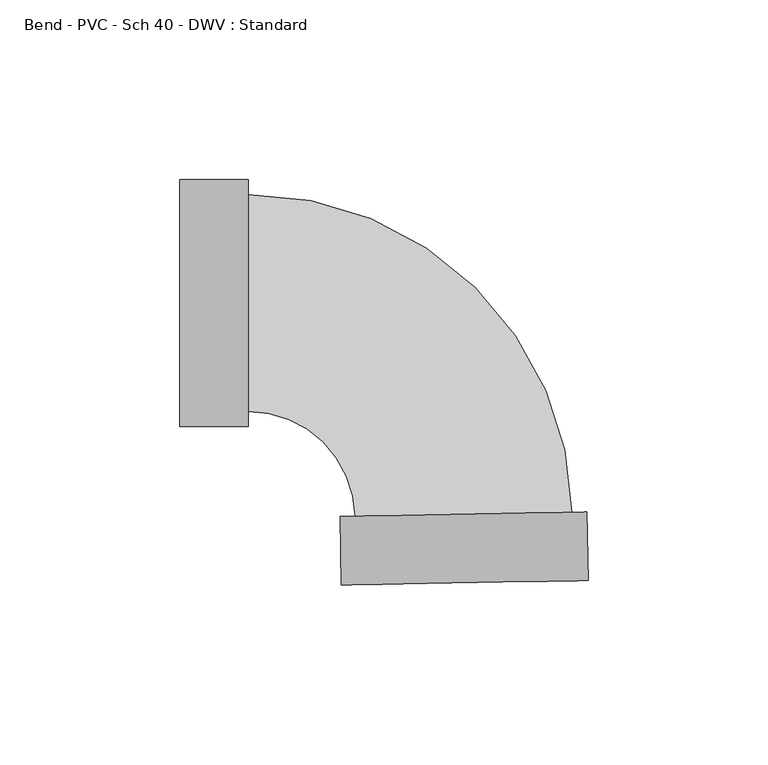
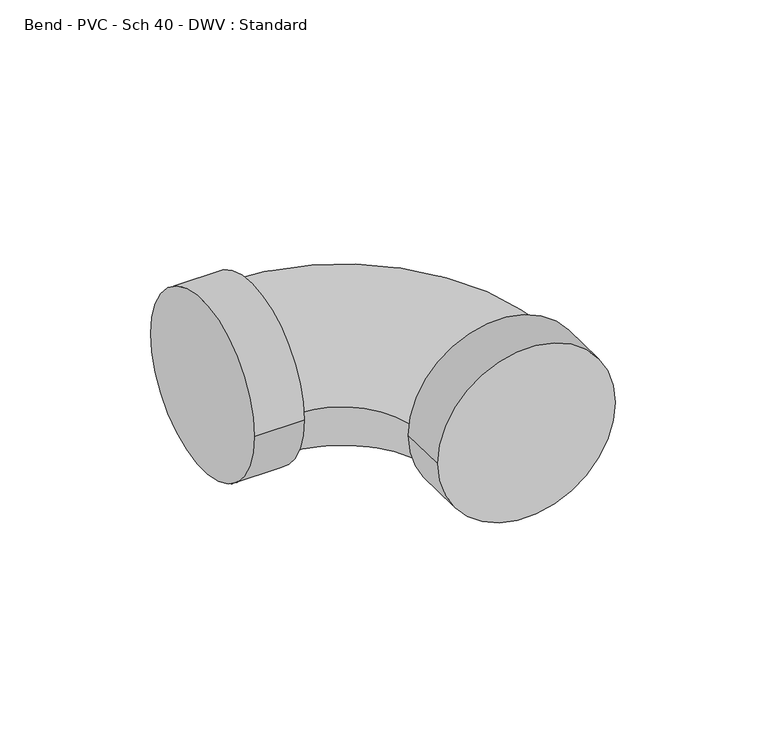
"""IFC4 building model written with IfcOpenShell, lengths in millimetres: pipe fitting geometry, Bend - PVC - Sch 40 - DWV : Standard."""

from ifc_helpers import new_model, si_unit, point, frame, origin, place, context, project, spatial, circle_curve, ellipse_curve, trimmed, source, transform, mapped, element, save
from ifc_brep_helpers import plane_surface, cylinder_surface, revolved_surface, advanced_brep


def bend_pvc_sch_40_dwv_standard_d8f6ba7d(model_context):
    return source(origin(), model_context, "Body", "AdvancedBrep", [
        advanced_brep(
        [(-77.8002, 34.3154, 0.0), (-77.8002, -34.3154, 0.0), (-58.7502, 34.3154, 0.0), (-58.7502, -34.3154, 0.0), (-58.7502, 30.1625, 0.0), (-58.7502, -30.1625, 0.0), (-29.104435, -59.2814834, 0.0), (31.2108706, -58.200034, 0.0), (35.3631033, -58.1255848, 0.0), (-33.2566676, -59.3559326, 0.0), (35.7046136, -77.1725234, 0.0), (-32.9151573, -78.4028712, 0.0)],
        [
            (0, 1, circle_curve(frame((-77.8002, 0.0, 0.0), z_axis=(-1.0, 0.0, 0.0), x_axis=(0.0, -1.0, 0.0)), 34.3154)),
            (1, 0, circle_curve(frame((-77.8002, 0.0, 0.0), z_axis=(-1.0, 0.0, 0.0), x_axis=(0.0, -1.0, 0.0)), 34.3154)),
            (2, 3, circle_curve(frame((-58.7502, 0.0, 0.0), z_axis=(1.0, 0.0, 0.0), x_axis=(0.0, -1.0, 0.0)), 34.3154)),
            (3, 2, circle_curve(frame((-58.7502, 0.0, 0.0), z_axis=(1.0, 0.0, 0.0), x_axis=(0.0, -1.0, 0.0)), 34.3154)),
            (4, 5, circle_curve(frame((-58.7502, 0.0, 0.0), z_axis=(-1.0, 0.0, 0.0), x_axis=(0.0, -1.0, 0.0)), 30.1625)),
            (5, 4, circle_curve(frame((-58.7502, 0.0, 0.0), z_axis=(-1.0, 0.0, 0.0), x_axis=(0.0, -1.0, 0.0)), 30.1625)),
            (1, 3),
            (2, 0),
            (6, 7, circle_curve(frame((1.0532178, -58.7407587, 0.0), z_axis=(-0.017927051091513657, 0.9998392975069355, 0.0), x_axis=(-0.9998392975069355, -0.017927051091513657, 0.0)), 30.1625)),
            (7, 4, circle_curve(frame((-58.7502, -59.8130299, 0.0), z_axis=(0.0, 0.0, 1.0), x_axis=(0.0, 1.0, 0.0)), 89.9755299)),
            (5, 6, circle_curve(frame((-58.7502, -59.8130299, 0.0), z_axis=(0.0, 0.0, -1.0), x_axis=(0.0, 1.0, 0.0)), 29.6505299)),
            (7, 6, circle_curve(frame((1.0532178, -58.7407587, 0.0), z_axis=(-0.017927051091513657, 0.9998392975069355, 0.0), x_axis=(-0.9998392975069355, -0.017927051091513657, 0.0)), 30.1625)),
            (8, 9, circle_curve(frame((1.0532178, -58.7407587, 0.0), z_axis=(-0.017927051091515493, 0.9998392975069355, 0.0), x_axis=(-0.9998392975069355, -0.017927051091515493, 0.0)), 34.3154)),
            (9, 8, circle_curve(frame((1.0532178, -58.7407587, 0.0), z_axis=(-0.017927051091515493, 0.9998392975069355, 0.0), x_axis=(-0.9998392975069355, -0.017927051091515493, 0.0)), 34.3154)),
            (10, 11, circle_curve(frame((1.3947282, -77.7876973, 0.0), z_axis=(0.017927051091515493, -0.9998392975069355, 0.0), x_axis=(-0.9998392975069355, -0.017927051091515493, 0.0)), 34.3154)),
            (11, 10, circle_curve(frame((1.3947282, -77.7876973, 0.0), z_axis=(0.017927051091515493, -0.9998392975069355, 0.0), x_axis=(-0.9998392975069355, -0.017927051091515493, 0.0)), 34.3154)),
            (9, 11),
            (10, 8),
        ],
        [
            plane_surface(frame((-77.8002, 0.0, 0.0), z_axis=(-1.0, 0.0, 0.0), x_axis=(0.0, 0.0, 1.0))),
            plane_surface(frame((-58.7502, 0.0, 0.0), z_axis=(1.0, 0.0, 0.0), x_axis=(0.0, 0.0, 1.0))),
            cylinder_surface(frame((-77.8002, 0.0, 0.0), z_axis=(-1.0, 0.0, 0.0), x_axis=(0.0, -1.0, 0.0)), 34.3154),
            revolved_surface(trimmed(ellipse_curve(frame((-58.7502, 0.0, 0.0), z_axis=(1.0, 0.0, 0.0), x_axis=(0.0, -1.0, 0.0)), 30.1625, 30.1625), [point((-58.7502, 30.1625, 0.0))], [point((-58.7502, -30.1625, 0.0))], True, "CARTESIAN"), (-58.7502, -59.8130299, 0.0), (0.0, 0.0, 1.0)),
            revolved_surface(trimmed(ellipse_curve(frame((-58.7502, 0.0, 0.0), z_axis=(1.0, 0.0, 0.0), x_axis=(0.0, -1.0, 0.0)), 30.1625, 30.1625), [point((-58.7502, -30.1625, 0.0))], [point((-58.7502, 30.1625, 0.0))], True, "CARTESIAN"), (-58.7502, -59.8130299, 0.0), (0.0, 0.0, 1.0)),
            plane_surface(frame((1.0532178, -58.7407587, 0.0), z_axis=(-0.017927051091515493, 0.9998392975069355, 0.0), x_axis=(0.0, 0.0, 1.0))),
            plane_surface(frame((1.3947282, -77.7876973, 0.0), z_axis=(0.017927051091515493, -0.9998392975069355, 0.0), x_axis=(0.0, 0.0, 1.0))),
            cylinder_surface(frame((1.0532178, -58.7407587, 0.0), z_axis=(-0.017927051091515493, 0.9998392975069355, 0.0), x_axis=(-0.9998392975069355, -0.017927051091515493, 0.0)), 34.3154),
        ],
        [
            (0, [[1, 2]]),
            (1, [[3, 4], [5, 6]]),
            (2, [[7, -3, 8, -2]]),
            (2, [[-8, -4, -7, -1]]),
            (3, [[9, 10, -6, 11]]),
            (4, [[-5, -10, 12, -11]]),
            (5, [[13, 14], [-12, -9]]),
            (6, [[15, 16]]),
            (7, [[17, -15, 18, -14]]),
            (7, [[-18, -16, -17, -13]]),
        ],
    ),
    ])


if __name__ == "__main__":
    model = new_model("IFC4")
    model_context = context("Model", 3, world=origin())
    ifc_project = project(units=[si_unit("LENGTHUNIT", "METRE", prefix="MILLI")], contexts=[model_context])
    site = spatial("IfcSite", under=ifc_project)
    building = spatial("IfcBuilding", under=site)
    placement = place(None, origin())
    bend_pvc_sch_40_dwv_standard_shape = bend_pvc_sch_40_dwv_standard_d8f6ba7d(model_context)
    element("IfcPipeFitting", 1, ObjectType="Bend - PVC - Sch 40 - DWV : Standard", at=placement, inside=building, context=model_context, shape_type="MappedRepresentation", body=[
        mapped(bend_pvc_sch_40_dwv_standard_shape, transform((0.0, 0.0, 0.0), x_axis=(1.0, 0.0, 0.0), y_axis=(0.0, 1.0, 0.0), z_axis=(0.0, 0.0, 1.0))),
    ])
    save(model, "model.ifc")
